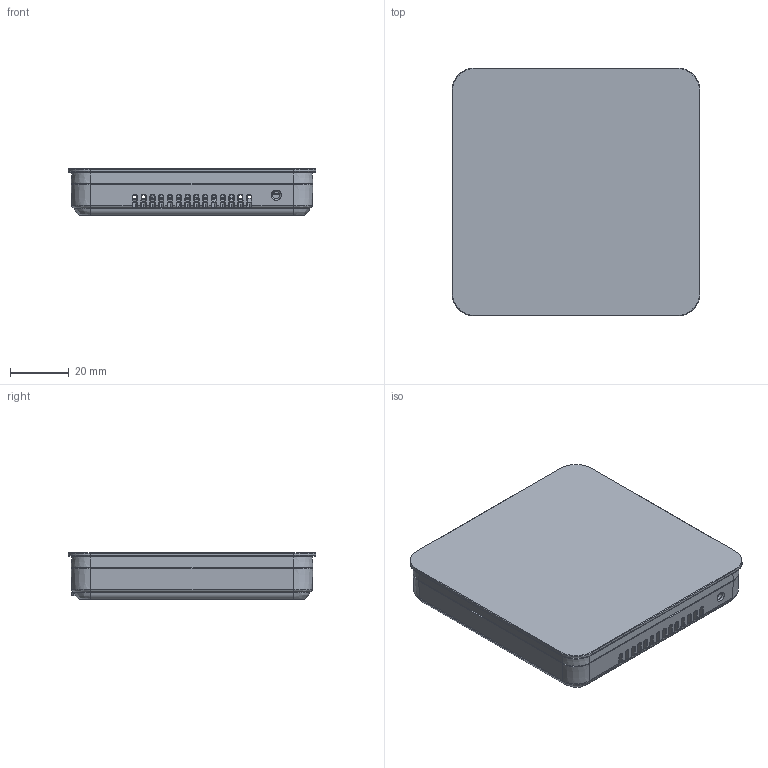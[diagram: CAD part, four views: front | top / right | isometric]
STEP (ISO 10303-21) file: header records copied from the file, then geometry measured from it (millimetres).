
FILE_DESCRIPTION(/* description */ (''),/* implementation_level */ '2;1');
FILE_NAME(/* name */ 'RS-3.step',/* time_stamp */ '2025-12-04T06:18:46+01:00',/* author */ (''),/* organization */ (''),/* preprocessor_version */ 'ST-DEVELOPER v20.1',/* originating_system */ 'Autodesk Translation Framework v14.21.0.0',/* authorisation */ '');
FILE_SCHEMA (('AUTOMOTIVE_DESIGN { 1 0 10303 214 3 1 1 }'));
Products named in the file (42): 297_RS NASCIENNY; oslona2_SPOD.0185; SZKŁO; OSLONA GORA_ok; zawieszka bez baterii_RS; ST-1003_2_G; PCB Component; Board; 2X02; JP10376-01_1; C0805; TQFP100_2; R0805; C0805 (1); NTC-10_1; 1,6_0,6; ANGLE-SW1-16_1; FIDUCIAL_G10; NINIGI_1T1206; SOD80C; SO8; SMD_T7; CAP_TYPE_AK; SOT23@1; WAGO2060; C1206; SOT23-5; SOT23; CSV-D; SO08; R1206; A6S-H-1; ENS210; MICRO3; 1003 FARBA; piktogramy; wago_WAGO2060; 2; WYSWIETLACZ DEDEYK BIG; WYSWIETLACZ DEDYKOWANY DUZY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
Assembly tree (129 placements, depth 4):
  297_RS NASCIENNY
    oslona2_SPOD.0185
    SZKŁO
    OSLONA GORA_ok
    zawieszka bez baterii_RS
    ST-1003_2_G
      PCB Component
        Board
        2X02
        JP10376-01_1
        C0805  x24
        TQFP100_2
        R0805  x25
        C0805 (1)  x3
        NTC-10_1
        1,6_0,6  x4
        ANGLE-SW1-16_1  x2
        FIDUCIAL_G10  x2
        NINIGI_1T1206
        SOD80C
        SO8
        SMD_T7  x2
        CAP_TYPE_AK
        SOT23@1
        WAGO2060  x3
        C1206  x2
        SOT23-5
        SOT23  x2
        CSV-D
        SO08
        R1206
        A6S-H-1
        ENS210
        MICRO3
    1003 FARBA
      piktogramy
    wago_WAGO2060  x3
    2
      WYSWIETLACZ DEDEYK BIG
        WYSWIETLACZ DEDYKOWANY DUZY
        PINY  x28
        piktogramy wyswietlacz dedykowany
Bounding box: 84.58 x 84.58 x 16.01 mm (x, y, z)
Volume: 59619.7 mm3; surface area: 87088.6 mm2
Topology: 221 solids, 221 shells, 4896 faces, 12747 edges, 8354 vertices
Faces by surface type: plane 2896, cylinder 953, bspline 783, cone 227, torus 27, sphere 10
Full cylindrical faces by diameter (mm): 0.092 x1, 0.18 x1, 0.483 x1, 0.66 x1, 0.763 x2, 0.947 x1, 1 x4, 1.5 x6, 1.822 x1, 2.25 x6, 2.3 x4, 2.5 x1, 8 x1
Entity records: 132934 total; most frequent: CARTESIAN_POINT 41375, ORIENTED_EDGE 19690, DIRECTION 17126, EDGE_CURVE 9845, VERTEX_POINT 6426, LINE 5896, VECTOR 5896, AXIS2_PLACEMENT_3D 5615
